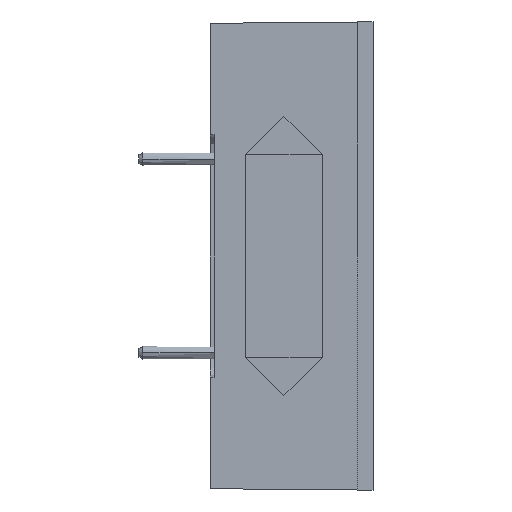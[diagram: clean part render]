
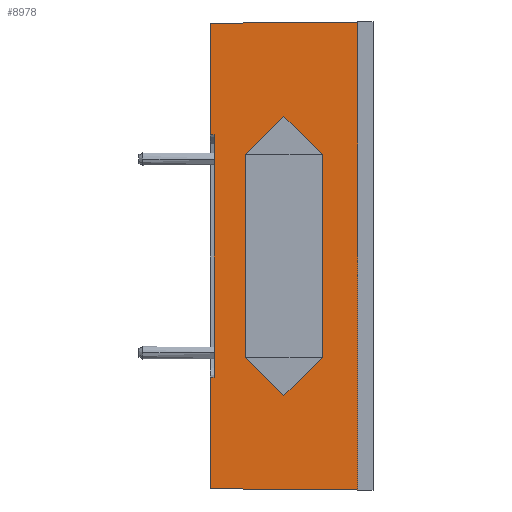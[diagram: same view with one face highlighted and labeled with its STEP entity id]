
A CAD part, left-side view. The second image highlights one B-rep face of the part: STEP entity #8978.
In plain terms, the highlighted planar face has unit normal (-1, 0.009, 0).
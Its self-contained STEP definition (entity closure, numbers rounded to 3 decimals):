
#167 = VECTOR ( 'NONE', #10429, 1000. ) ;
#311 = ORIENTED_EDGE ( 'NONE', *, *, #6791, .F. ) ;
#405 = CARTESIAN_POINT ( 'NONE',  ( -28.851, 11.3, -18.4 ) ) ;
#418 = CARTESIAN_POINT ( 'NONE',  ( -28.926, 2.8, 9.757 ) ) ;
#456 = CARTESIAN_POINT ( 'NONE',  ( -28.899, 5.8, 11. ) ) ;
#815 = VERTEX_POINT ( 'NONE', #7108 ) ;
#891 = DIRECTION ( 'NONE',  ( 0., 0., 1. ) ) ;
#926 = EDGE_CURVE ( 'NONE', #13054, #10968, #5671, .T. ) ;
#947 = CARTESIAN_POINT ( 'NONE',  ( -28.926, 2.8, 8. ) ) ;
#1064 =( BOUNDED_CURVE ( )  B_SPLINE_CURVE ( 3, ( #1443, #4614, #6814, #9871 ),
 .UNSPECIFIED., .F., .F. ) 
 B_SPLINE_CURVE_WITH_KNOTS ( ( 4, 4 ),
 ( 3.142, 6.283 ),
 .UNSPECIFIED. ) 
 CURVE ( )  GEOMETRIC_REPRESENTATION_ITEM ( )  RATIONAL_B_SPLINE_CURVE ( ( 1., 0.333, 0.333, 1. ) ) 
 REPRESENTATION_ITEM ( '' )  );
#1117 = LINE ( 'NONE', #1614, #5468 ) ;
#1161 = DIRECTION ( 'NONE',  ( 0.009, 1., 0. ) ) ;
#1443 = CARTESIAN_POINT ( 'NONE',  ( -28.873, 8.8, -8. ) ) ;
#1614 = CARTESIAN_POINT ( 'NONE',  ( -28.95, 0., 18.4 ) ) ;
#1814 = CARTESIAN_POINT ( 'NONE',  ( -28.873, 8.8, -8. ) ) ;
#2290 = EDGE_CURVE ( 'NONE', #2982, #11336, #2459, .T. ) ;
#2329 = EDGE_CURVE ( 'NONE', #9804, #8619, #12091, .T. ) ;
#2335 = ORIENTED_EDGE ( 'NONE', *, *, #3860, .F. ) ;
#2391 = DIRECTION ( 'NONE',  ( -0.009, -1., 0. ) ) ;
#2459 = LINE ( 'NONE', #9708, #11283 ) ;
#2720 = VECTOR ( 'NONE', #6585, 1000. ) ;
#2740 = ORIENTED_EDGE ( 'NONE', *, *, #926, .F. ) ;
#2903 = VERTEX_POINT ( 'NONE', #9076 ) ;
#2982 = VERTEX_POINT ( 'NONE', #8142 ) ;
#3120 = ORIENTED_EDGE ( 'NONE', *, *, #4532, .F. ) ;
#3346 = ORIENTED_EDGE ( 'NONE', *, *, #2290, .T. ) ;
#3567 = VECTOR ( 'NONE', #6698, 1000. ) ;
#3599 = LINE ( 'NONE', #10212, #5681 ) ;
#3614 = EDGE_CURVE ( 'NONE', #10968, #11336, #1117, .T. ) ;
#3860 = EDGE_CURVE ( 'NONE', #815, #5876, #12872, .T. ) ;
#3912 = EDGE_CURVE ( 'NONE', #12511, #6064, #5616, .T. ) ;
#4128 = CARTESIAN_POINT ( 'NONE',  ( -28.899, 5.8, 11. ) ) ;
#4332 = CARTESIAN_POINT ( 'NONE',  ( -28.849, 11.6, 9.525 ) ) ;
#4529 = CARTESIAN_POINT ( 'NONE',  ( -28.915, 4.043, 11. ) ) ;
#4532 = EDGE_CURVE ( 'NONE', #5096, #9804, #5050, .T. ) ;
#4614 = CARTESIAN_POINT ( 'NONE',  ( -28.873, 8.8, -14. ) ) ;
#4615 = CARTESIAN_POINT ( 'NONE',  ( -28.95, 0., -18.4 ) ) ;
#4761 = CARTESIAN_POINT ( 'NONE',  ( -28.873, 8.8, -18.4 ) ) ;
#4763 = ORIENTED_EDGE ( 'NONE', *, *, #2329, .F. ) ;
#5016 = VECTOR ( 'NONE', #8374, 1000. ) ;
#5050 =( BOUNDED_CURVE ( )  B_SPLINE_CURVE ( 3, ( #4128, #8297, #7315, #12371 ),
 .UNSPECIFIED., .F., .F. ) 
 B_SPLINE_CURVE_WITH_KNOTS ( ( 4, 4 ),
 ( 1.571, 3.142 ),
 .UNSPECIFIED. ) 
 CURVE ( )  GEOMETRIC_REPRESENTATION_ITEM ( )  RATIONAL_B_SPLINE_CURVE ( ( 1., 0.805, 0.805, 1. ) ) 
 REPRESENTATION_ITEM ( '' )  );
#5096 = VERTEX_POINT ( 'NONE', #10966 ) ;
#5201 = VECTOR ( 'NONE', #5662, 1000. ) ;
#5227 = EDGE_CURVE ( 'NONE', #13054, #13035, #3599, .T. ) ;
#5430 = DIRECTION ( 'NONE',  ( -1., 0.009, 0. ) ) ;
#5468 = VECTOR ( 'NONE', #9770, 1000. ) ;
#5525 = VECTOR ( 'NONE', #1161, 1000. ) ;
#5616 = LINE ( 'NONE', #6264, #167 ) ;
#5662 = DIRECTION ( 'NONE',  ( -0.009, -1., -0.009 ) ) ;
#5671 = LINE ( 'NONE', #11301, #5016 ) ;
#5681 = VECTOR ( 'NONE', #12352, 1000. ) ;
#5876 = VERTEX_POINT ( 'NONE', #8963 ) ;
#6064 = VERTEX_POINT ( 'NONE', #947 ) ;
#6251 = EDGE_LOOP ( 'NONE', ( #11594, #8359, #2335, #6351, #3346, #8550, #2740, #12730 ) ) ;
#6253 = VECTOR ( 'NONE', #891, 1000. ) ;
#6264 = CARTESIAN_POINT ( 'NONE',  ( -28.926, 2.8, -18.4 ) ) ;
#6272 = CARTESIAN_POINT ( 'NONE',  ( -28.95, 0., -9.525 ) ) ;
#6351 = ORIENTED_EDGE ( 'NONE', *, *, #10028, .T. ) ;
#6585 = DIRECTION ( 'NONE',  ( 0., 0., 1. ) ) ;
#6698 = DIRECTION ( 'NONE',  ( 0., 0., -1. ) ) ;
#6791 = EDGE_CURVE ( 'NONE', #6064, #5096, #9943, .T. ) ;
#6814 = CARTESIAN_POINT ( 'NONE',  ( -28.926, 2.8, -14. ) ) ;
#6823 = FACE_OUTER_BOUND ( 'NONE', #6251, .T. ) ;
#7040 = LINE ( 'NONE', #405, #2720 ) ;
#7108 = CARTESIAN_POINT ( 'NONE',  ( -28.849, 11.6, -18.299 ) ) ;
#7192 = EDGE_LOOP ( 'NONE', ( #7232, #4763, #3120, #311, #13024 ) ) ;
#7232 = ORIENTED_EDGE ( 'NONE', *, *, #10173, .F. ) ;
#7315 = CARTESIAN_POINT ( 'NONE',  ( -28.873, 8.8, 9.757 ) ) ;
#8142 = CARTESIAN_POINT ( 'NONE',  ( -28.95, 0., -18.4 ) ) ;
#8297 = CARTESIAN_POINT ( 'NONE',  ( -28.884, 7.557, 11. ) ) ;
#8345 = CARTESIAN_POINT ( 'NONE',  ( -28.849, 11.6, 18.299 ) ) ;
#8359 = ORIENTED_EDGE ( 'NONE', *, *, #10434, .T. ) ;
#8374 = DIRECTION ( 'NONE',  ( 0., 0., 1. ) ) ;
#8446 = FACE_BOUND ( 'NONE', #7192, .T. ) ;
#8550 = ORIENTED_EDGE ( 'NONE', *, *, #3614, .F. ) ;
#8598 = CARTESIAN_POINT ( 'NONE',  ( -28.926, 2.8, 8. ) ) ;
#8619 = VERTEX_POINT ( 'NONE', #1814 ) ;
#8647 = CARTESIAN_POINT ( 'NONE',  ( -28.873, 8.8, 8. ) ) ;
#8963 = CARTESIAN_POINT ( 'NONE',  ( -28.849, 11.6, -9.525 ) ) ;
#8978 = ADVANCED_FACE ( 'NONE', ( #6823, #8446 ), #12542, .T. ) ;
#9076 = CARTESIAN_POINT ( 'NONE',  ( -28.851, 11.3, -9.525 ) ) ;
#9435 = AXIS2_PLACEMENT_3D ( 'NONE', #11591, #5430, #2391 ) ;
#9596 = LINE ( 'NONE', #4615, #5201 ) ;
#9708 = CARTESIAN_POINT ( 'NONE',  ( -28.95, 0., -18.4 ) ) ;
#9770 = DIRECTION ( 'NONE',  ( -0.009, -1., 0.009 ) ) ;
#9804 = VERTEX_POINT ( 'NONE', #8647 ) ;
#9821 = DIRECTION ( 'NONE',  ( 0., 0., 1. ) ) ;
#9871 = CARTESIAN_POINT ( 'NONE',  ( -28.926, 2.8, -8. ) ) ;
#9943 =( BOUNDED_CURVE ( )  B_SPLINE_CURVE ( 3, ( #8598, #418, #4529, #456 ),
 .UNSPECIFIED., .F., .F. ) 
 B_SPLINE_CURVE_WITH_KNOTS ( ( 4, 4 ),
 ( 0., 1.571 ),
 .UNSPECIFIED. ) 
 CURVE ( )  GEOMETRIC_REPRESENTATION_ITEM ( )  RATIONAL_B_SPLINE_CURVE ( ( 1., 0.805, 0.805, 1. ) ) 
 REPRESENTATION_ITEM ( '' )  );
#10028 = EDGE_CURVE ( 'NONE', #815, #2982, #9596, .T. ) ;
#10074 = CARTESIAN_POINT ( 'NONE',  ( -28.95, 0., 18.4 ) ) ;
#10173 = EDGE_CURVE ( 'NONE', #8619, #12511, #1064, .T. ) ;
#10212 = CARTESIAN_POINT ( 'NONE',  ( -28.95, 0., 9.525 ) ) ;
#10429 = DIRECTION ( 'NONE',  ( 0., 0., 1. ) ) ;
#10434 = EDGE_CURVE ( 'NONE', #2903, #5876, #13085, .T. ) ;
#10966 = CARTESIAN_POINT ( 'NONE',  ( -28.899, 5.8, 11. ) ) ;
#10968 = VERTEX_POINT ( 'NONE', #8345 ) ;
#11283 = VECTOR ( 'NONE', #9821, 1000. ) ;
#11301 = CARTESIAN_POINT ( 'NONE',  ( -28.849, 11.6, -18.4 ) ) ;
#11336 = VERTEX_POINT ( 'NONE', #10074 ) ;
#11591 = CARTESIAN_POINT ( 'NONE',  ( -28.95, 0., -18.4 ) ) ;
#11594 = ORIENTED_EDGE ( 'NONE', *, *, #11821, .F. ) ;
#11671 = CARTESIAN_POINT ( 'NONE',  ( -28.851, 11.3, 9.525 ) ) ;
#11821 = EDGE_CURVE ( 'NONE', #2903, #13035, #7040, .T. ) ;
#12091 = LINE ( 'NONE', #4761, #3567 ) ;
#12352 = DIRECTION ( 'NONE',  ( -0.009, -1., 0. ) ) ;
#12357 = CARTESIAN_POINT ( 'NONE',  ( -28.849, 11.6, -18.4 ) ) ;
#12371 = CARTESIAN_POINT ( 'NONE',  ( -28.873, 8.8, 8. ) ) ;
#12511 = VERTEX_POINT ( 'NONE', #12651 ) ;
#12542 = PLANE ( 'NONE',  #9435 ) ;
#12651 = CARTESIAN_POINT ( 'NONE',  ( -28.926, 2.8, -8. ) ) ;
#12730 = ORIENTED_EDGE ( 'NONE', *, *, #5227, .T. ) ;
#12872 = LINE ( 'NONE', #12357, #6253 ) ;
#13024 = ORIENTED_EDGE ( 'NONE', *, *, #3912, .F. ) ;
#13035 = VERTEX_POINT ( 'NONE', #11671 ) ;
#13054 = VERTEX_POINT ( 'NONE', #4332 ) ;
#13085 = LINE ( 'NONE', #6272, #5525 ) ;
